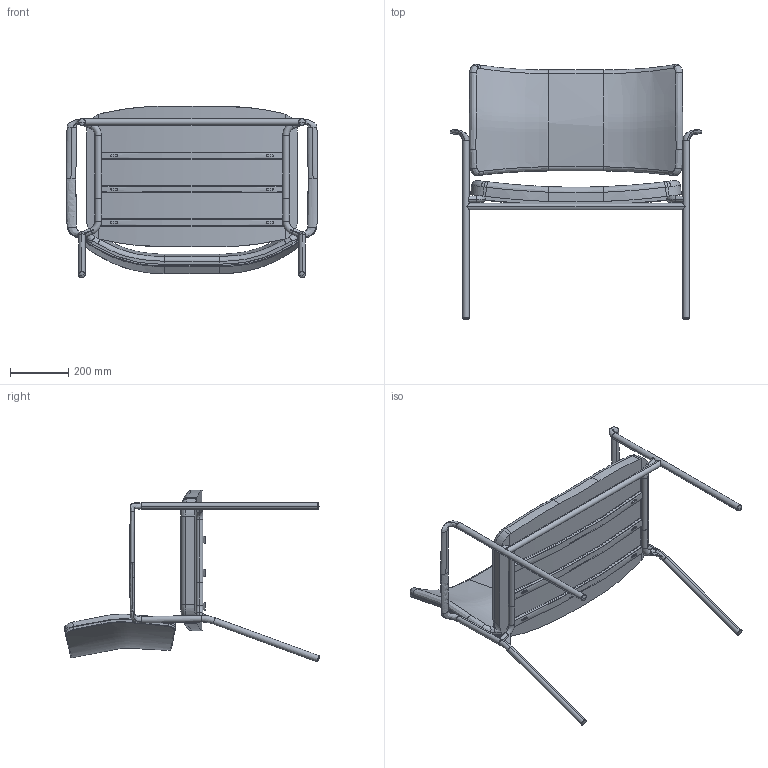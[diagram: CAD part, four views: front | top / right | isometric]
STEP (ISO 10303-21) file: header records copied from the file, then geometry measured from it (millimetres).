
FILE_DESCRIPTION (( 'STEP AP203' ), '1' );
FILE_NAME ('M600 - RAINBOW PLUS.STEP', '2020-06-19T15:24:54', ( '' ), ( '' ), 'SwSTEP 2.0', 'SolidWorks 2019', '' );
FILE_SCHEMA (( 'CONFIG_CONTROL_DESIGN' ));
Length unit declared in the file: inch
Products named in the file (1): M600 - RAINBOW PLUS
Bounding box: 864.82 x 875.88 x 589.35 mm (x, y, z)
Surface area: 2122215.9 mm2 (no closed solid volume)
Topology: 0 solids, 27 shells, 272 faces, 798 edges, 534 vertices
Faces by surface type: bspline 130, cylinder 69, plane 49, torus 22, sphere 2
Entity records: 125956 total; most frequent: CARTESIAN_POINT 119975, ORIENTED_EDGE 1350, DIRECTION 880, EDGE_CURVE 784, VERTEX_POINT 530, B_SPLINE_CURVE_WITH_KNOTS 389, AXIS2_PLACEMENT_3D 367, EDGE_LOOP 289
